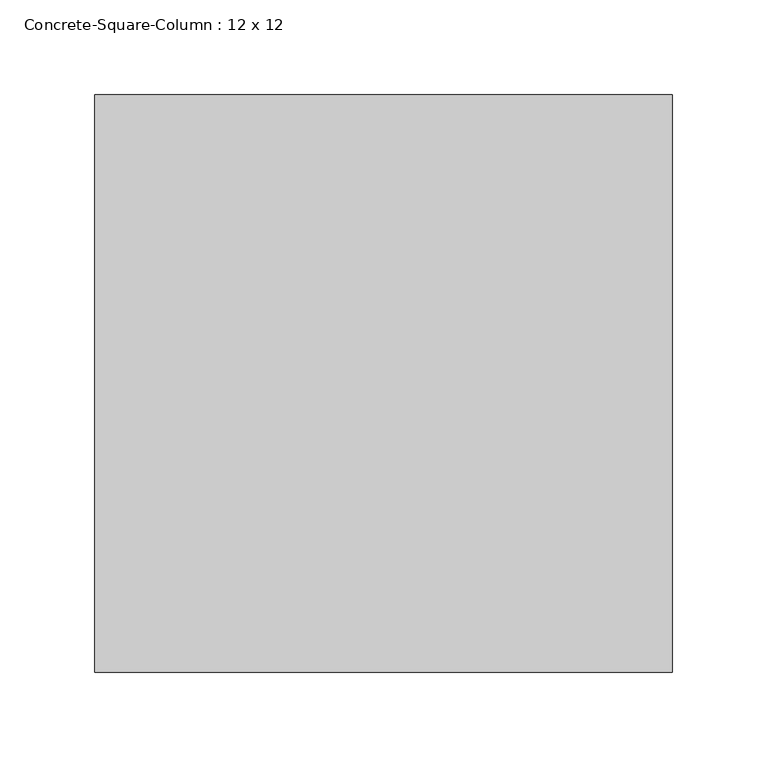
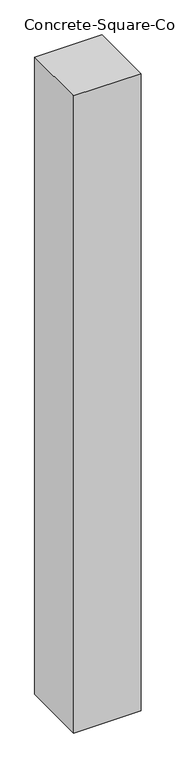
"""IFC4 building model written with IfcOpenShell, lengths in millimetres: column geometry, Concrete-Square-Column : 12 x 12."""

from ifc_helpers import new_model, si_unit, origin, origin_with_axes, place, context, project, spatial, polyline, outline, extrude, source, transform, mapped, element, save


def concrete_square_column_12_x_12_d780e21f(model_context):
    return source(origin(), model_context, "Body", "SweptSolid", [
        extrude(outline(polyline([(152.4, 152.4), (152.4, -152.4), (-152.4, -152.4), (-152.4, 152.4), (152.4, 152.4)])), origin_with_axes(), (0.0, 0.0, 1.0), 3048.0),
    ])


if __name__ == "__main__":
    model = new_model("IFC4")
    model_context = context("Model", 3, world=origin())
    ifc_project = project(units=[si_unit("LENGTHUNIT", "METRE", prefix="MILLI")], contexts=[model_context])
    site = spatial("IfcSite", under=ifc_project)
    building = spatial("IfcBuilding", under=site)
    placement = place(None, origin())
    concrete_square_column_12_x_12_shape = concrete_square_column_12_x_12_d780e21f(model_context)
    element("IfcColumn", 1, ObjectType="Concrete-Square-Column : 12 x 12", at=placement, inside=building, context=model_context, shape_type="MappedRepresentation", body=[
        mapped(concrete_square_column_12_x_12_shape, transform((0.0, 0.0, 0.0), x_axis=(1.0, 0.0, 0.0), y_axis=(0.0, 1.0, 0.0), z_axis=(0.0, 0.0, 1.0))),
    ])
    save(model, "model.ifc")
